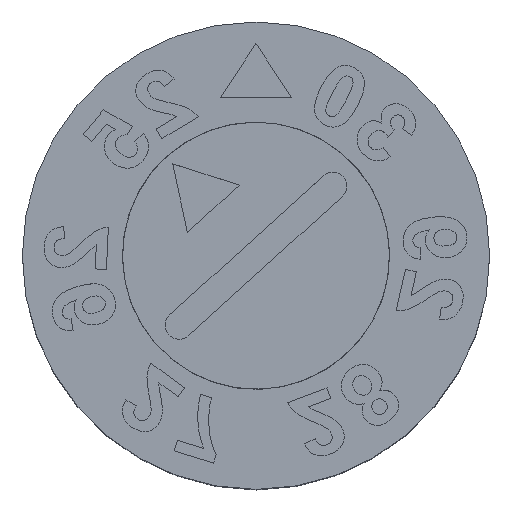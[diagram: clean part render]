
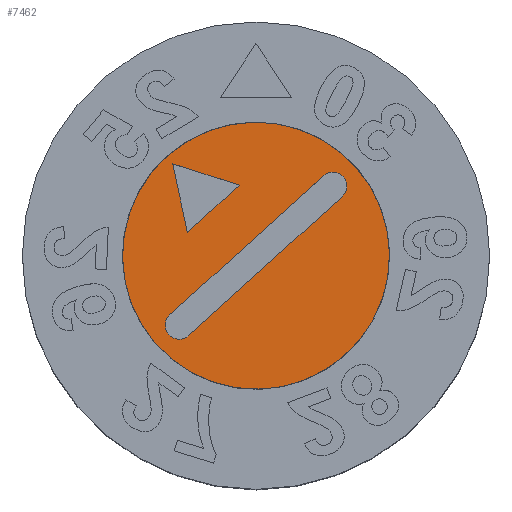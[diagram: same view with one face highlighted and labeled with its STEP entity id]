
A CAD part, top view. The second image highlights one B-rep face of the part: STEP entity #7462.
In plain terms, the highlighted planar face has unit normal (0, 0, 1).
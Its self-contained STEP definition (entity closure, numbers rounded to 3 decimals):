
#136 = EDGE_CURVE ( 'NONE', #1381, #12131, #10153, .T. ) ;
#250 = CARTESIAN_POINT ( 'NONE',  ( 0., 0., 0. ) ) ;
#283 = CARTESIAN_POINT ( 'NONE',  ( 1.55, 0., 0. ) ) ;
#504 = CARTESIAN_POINT ( 'NONE',  ( -0.525, 0.95, 0. ) ) ;
#825 = LINE ( 'NONE', #1730, #7302 ) ;
#847 = DIRECTION ( 'NONE',  ( 1., 0., 0. ) ) ;
#1060 = DIRECTION ( 'NONE',  ( 0., 0., 1. ) ) ;
#1177 = CARTESIAN_POINT ( 'NONE',  ( 0., 0., 0. ) ) ;
#1187 = ORIENTED_EDGE ( 'NONE', *, *, #6236, .F. ) ;
#1215 = FACE_BOUND ( 'NONE', #9622, .T. ) ;
#1313 = ORIENTED_EDGE ( 'NONE', *, *, #10576, .F. ) ;
#1381 = VERTEX_POINT ( 'NONE', #1456 ) ;
#1422 = CARTESIAN_POINT ( 'NONE',  ( -2., 0., 0. ) ) ;
#1456 = CARTESIAN_POINT ( 'NONE',  ( 1.55, -0.21, 0. ) ) ;
#1474 = DIRECTION ( 'NONE',  ( -0.5, 0.866, 0. ) ) ;
#1730 = CARTESIAN_POINT ( 'NONE',  ( -1.55, 0.21, 0. ) ) ;
#1760 = CARTESIAN_POINT ( 'NONE',  ( 1.55, 0.21, 0. ) ) ;
#1986 = DIRECTION ( 'NONE',  ( -1., 0., 0. ) ) ;
#2108 = FACE_BOUND ( 'NONE', #12705, .T. ) ;
#2396 = AXIS2_PLACEMENT_3D ( 'NONE', #283, #1060, #11111 ) ;
#2568 = CARTESIAN_POINT ( 'NONE',  ( -1.55, 0., 0. ) ) ;
#2580 = AXIS2_PLACEMENT_3D ( 'NONE', #2568, #6488, #4559 ) ;
#2936 = EDGE_CURVE ( 'NONE', #8383, #10308, #9191, .T. ) ;
#3160 = DIRECTION ( 'NONE',  ( -1., 0., 0. ) ) ;
#3162 = ORIENTED_EDGE ( 'NONE', *, *, #8692, .F. ) ;
#3203 = CARTESIAN_POINT ( 'NONE',  ( 1., 0., 0. ) ) ;
#3332 = EDGE_CURVE ( 'NONE', #5369, #5455, #11623, .T. ) ;
#3452 = EDGE_CURVE ( 'NONE', #3594, #1381, #3478, .T. ) ;
#3478 = LINE ( 'NONE', #10306, #5430 ) ;
#3594 = VERTEX_POINT ( 'NONE', #7063 ) ;
#3772 = AXIS2_PLACEMENT_3D ( 'NONE', #3996, #7922, #7730 ) ;
#3813 = AXIS2_PLACEMENT_3D ( 'NONE', #3203, #8859, #12112 ) ;
#3993 = VERTEX_POINT ( 'NONE', #1760 ) ;
#3996 = CARTESIAN_POINT ( 'NONE',  ( 1.55, 0., 0. ) ) ;
#4048 = DIRECTION ( 'NONE',  ( 0., 0., -1. ) ) ;
#4178 = ORIENTED_EDGE ( 'NONE', *, *, #9473, .F. ) ;
#4302 = CARTESIAN_POINT ( 'NONE',  ( -1.55, 0.21, 0. ) ) ;
#4510 = DIRECTION ( 'NONE',  ( 1., 0., 0. ) ) ;
#4559 = DIRECTION ( 'NONE',  ( 1., 0., 0. ) ) ;
#4745 = EDGE_CURVE ( 'NONE', #10308, #10643, #10387, .T. ) ;
#4941 = ORIENTED_EDGE ( 'NONE', *, *, #2936, .F. ) ;
#5071 = FACE_OUTER_BOUND ( 'NONE', #11877, .T. ) ;
#5369 = VERTEX_POINT ( 'NONE', #1422 ) ;
#5430 = VECTOR ( 'NONE', #4510, 1000. ) ;
#5455 = VERTEX_POINT ( 'NONE', #11843 ) ;
#6199 = EDGE_CURVE ( 'NONE', #9929, #3594, #6475, .T. ) ;
#6236 = EDGE_CURVE ( 'NONE', #3993, #9929, #825, .T. ) ;
#6475 = CIRCLE ( 'NONE', #2580, 0.21 ) ;
#6488 = DIRECTION ( 'NONE',  ( 0., 0., 1. ) ) ;
#6493 = CIRCLE ( 'NONE', #2396, 0.21 ) ;
#7063 = CARTESIAN_POINT ( 'NONE',  ( -1.55, -0.21, 0. ) ) ;
#7110 = CIRCLE ( 'NONE', #10630, 2. ) ;
#7302 = VECTOR ( 'NONE', #7454, 1000. ) ;
#7454 = DIRECTION ( 'NONE',  ( -1., 0., 0. ) ) ;
#7462 = ADVANCED_FACE ( 'NONE', ( #2108, #1215, #5071 ), #7966, .T. ) ;
#7730 = DIRECTION ( 'NONE',  ( 1., 0., 0. ) ) ;
#7922 = DIRECTION ( 'NONE',  ( 0., 0., 1. ) ) ;
#7966 = PLANE ( 'NONE',  #3813 ) ;
#8187 = DIRECTION ( 'NONE',  ( 0., 0., -1. ) ) ;
#8383 = VERTEX_POINT ( 'NONE', #10729 ) ;
#8631 = LINE ( 'NONE', #9538, #11650 ) ;
#8692 = EDGE_CURVE ( 'NONE', #12131, #3993, #6493, .T. ) ;
#8859 = DIRECTION ( 'NONE',  ( 0., 0., 1. ) ) ;
#8905 = CARTESIAN_POINT ( 'NONE',  ( 1.76, 0., 0. ) ) ;
#9022 = ORIENTED_EDGE ( 'NONE', *, *, #136, .F. ) ;
#9191 = LINE ( 'NONE', #10345, #12660 ) ;
#9229 = ORIENTED_EDGE ( 'NONE', *, *, #3452, .F. ) ;
#9232 = CARTESIAN_POINT ( 'NONE',  ( 0., 1.859, 0. ) ) ;
#9473 = EDGE_CURVE ( 'NONE', #10643, #8383, #8631, .T. ) ;
#9538 = CARTESIAN_POINT ( 'NONE',  ( -0.525, 0.95, 0. ) ) ;
#9564 = AXIS2_PLACEMENT_3D ( 'NONE', #1177, #8187, #3160 ) ;
#9622 = EDGE_LOOP ( 'NONE', ( #4941, #4178, #12413 ) ) ;
#9929 = VERTEX_POINT ( 'NONE', #4302 ) ;
#10153 = CIRCLE ( 'NONE', #3772, 0.21 ) ;
#10306 = CARTESIAN_POINT ( 'NONE',  ( -1.55, -0.21, 0. ) ) ;
#10308 = VERTEX_POINT ( 'NONE', #12652 ) ;
#10345 = CARTESIAN_POINT ( 'NONE',  ( 0.525, 0.95, 0. ) ) ;
#10387 = LINE ( 'NONE', #9232, #12264 ) ;
#10576 = EDGE_CURVE ( 'NONE', #5455, #5369, #7110, .T. ) ;
#10630 = AXIS2_PLACEMENT_3D ( 'NONE', #250, #4048, #1986 ) ;
#10643 = VERTEX_POINT ( 'NONE', #504 ) ;
#10729 = CARTESIAN_POINT ( 'NONE',  ( 0.525, 0.95, 0. ) ) ;
#11111 = DIRECTION ( 'NONE',  ( 1., 0., 0. ) ) ;
#11623 = CIRCLE ( 'NONE', #9564, 2. ) ;
#11650 = VECTOR ( 'NONE', #847, 1000. ) ;
#11843 = CARTESIAN_POINT ( 'NONE',  ( 2., 0., 0. ) ) ;
#11877 = EDGE_LOOP ( 'NONE', ( #12646, #1313 ) ) ;
#12112 = DIRECTION ( 'NONE',  ( 1., 0., 0. ) ) ;
#12131 = VERTEX_POINT ( 'NONE', #8905 ) ;
#12155 = DIRECTION ( 'NONE',  ( -0.5, -0.866, 0. ) ) ;
#12217 = ORIENTED_EDGE ( 'NONE', *, *, #6199, .F. ) ;
#12264 = VECTOR ( 'NONE', #12155, 1000. ) ;
#12413 = ORIENTED_EDGE ( 'NONE', *, *, #4745, .F. ) ;
#12646 = ORIENTED_EDGE ( 'NONE', *, *, #3332, .F. ) ;
#12652 = CARTESIAN_POINT ( 'NONE',  ( 0., 1.859, 0. ) ) ;
#12660 = VECTOR ( 'NONE', #1474, 1000. ) ;
#12705 = EDGE_LOOP ( 'NONE', ( #12217, #1187, #3162, #9022, #9229 ) ) ;
